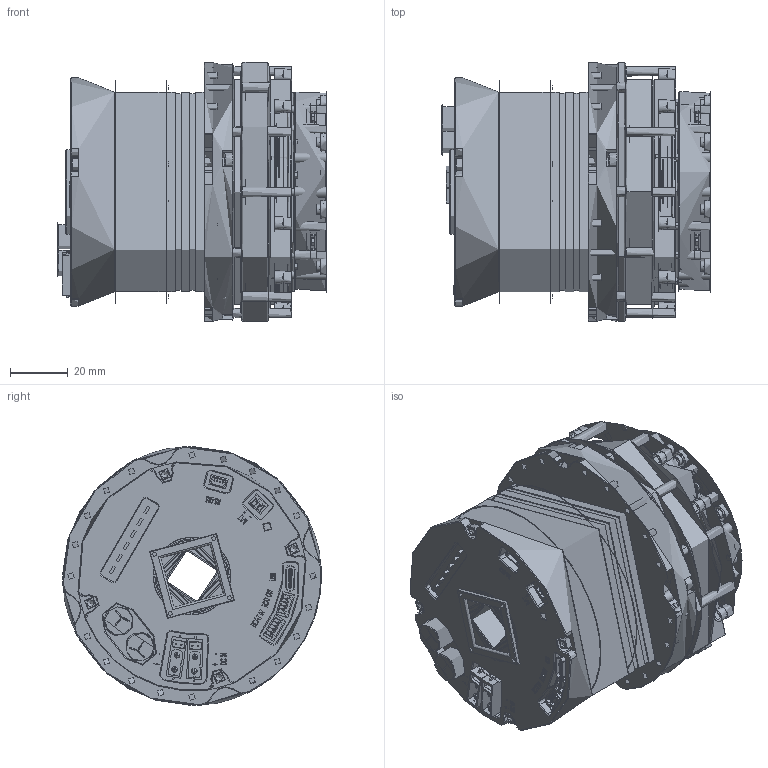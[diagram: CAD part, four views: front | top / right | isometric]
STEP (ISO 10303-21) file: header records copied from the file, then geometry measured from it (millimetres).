
FILE_DESCRIPTION( ('This file contains a STEP AP42 implementation' ,'as created by ZW3D STEP Interface translator.') ,'2;1' );
FILE_NAME( 'HJ2-90F101D24-BK-EC1.stp' ,'2512 5.14 826', (''), ('ZWCAD Software Co.'), 'Version 1.0', 'ZW3D to STEP translator', '' );
FILE_SCHEMA(('AUTOMOTIVE_DESIGN { 1 0 10303 214 1 1 1 1 }'));
Length unit declared in the file: millimetre
Products named in the file (1): 0
Bounding box: 93.4 x 90 x 90 mm (x, y, z)
Volume: 474754.4 mm3; surface area: 72879.6 mm2
Topology: 1 solids, 73 shells, 4259 faces, 10992 edges, 7155 vertices
Faces by surface type: plane 3377, cylinder 487, cone 256, torus 96, sphere 28, bspline 15
Full cylindrical faces by diameter (mm): 0.3 x4, 1.6 x4, 2.05 x16, 2.5 x28, 2.7 x4, 3 x29, 3.5 x60, 4 x8, 4.5 x12, 4.7 x8, 5.5 x8, 6 x22, 10.5 x2, 18 x1, 21.39 x1, 25 x1, 25.832 x1, 27 x1, 34 x1, 52 x1, 56.2 x4, 68 x4, 69 x4, 69.8 x2, 70 x1, 71.2 x2, 71.6 x2, 72.2 x2, 74 x10, 75.6 x2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
Entity records: 133090 total; most frequent: CARTESIAN_POINT 23177, ORIENTED_EDGE 22094, DIRECTION 21087, EDGE_CURVE 11028, VECTOR 9181, LINE 9181, VERTEX_POINT 7185, AXIS2_PLACEMENT_3D 5953
